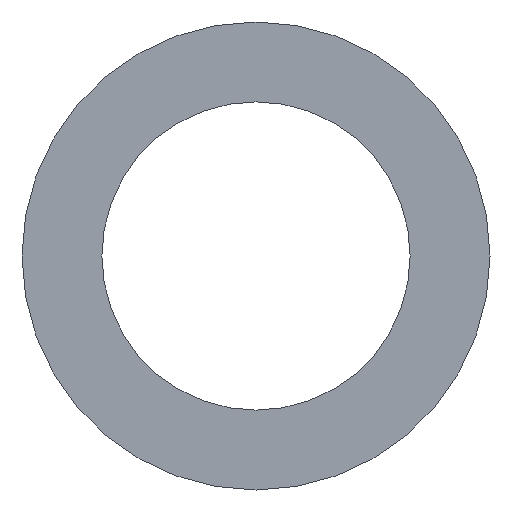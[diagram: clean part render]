
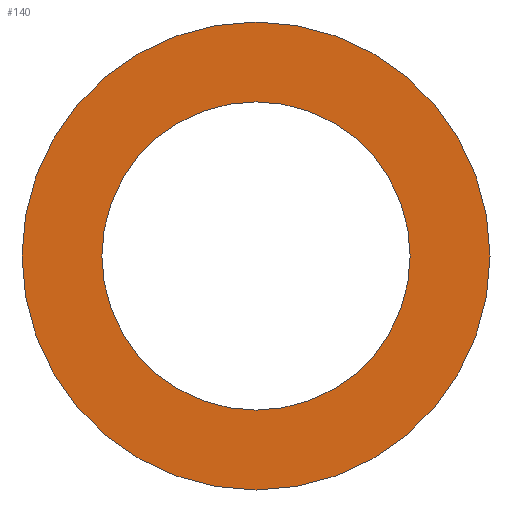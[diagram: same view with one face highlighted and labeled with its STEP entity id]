
A CAD part, front view. The second image highlights one B-rep face of the part: STEP entity #140.
In plain terms, the highlighted planar face has unit normal (0, -1, 0).
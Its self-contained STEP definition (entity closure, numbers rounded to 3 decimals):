
#31 = CYLINDRICAL_SURFACE('',#32,17.);
#32 = AXIS2_PLACEMENT_3D('',#33,#34,#35);
#33 = CARTESIAN_POINT('',(315.,-91.913,125.));
#34 = DIRECTION('',(0.,1.,0.));
#35 = DIRECTION('',(0.,-0.,1.));
#56 = VERTEX_POINT('',#57);
#57 = CARTESIAN_POINT('',(315.,-91.913,142.));
#78 = EDGE_CURVE('',#56,#56,#79,.T.);
#79 = SURFACE_CURVE('',#80,(#85,#92),.PCURVE_S1.);
#80 = CIRCLE('',#81,17.);
#81 = AXIS2_PLACEMENT_3D('',#82,#83,#84);
#82 = CARTESIAN_POINT('',(315.,-91.913,125.));
#83 = DIRECTION('',(0.,1.,0.));
#84 = DIRECTION('',(0.,-0.,1.));
#85 = PCURVE('',#31,#86);
#86 = DEFINITIONAL_REPRESENTATION('',(#87),#91);
#87 = LINE('',#88,#89);
#88 = CARTESIAN_POINT('',(0.,0.));
#89 = VECTOR('',#90,1.);
#90 = DIRECTION('',(1.,0.));
#91 = ( GEOMETRIC_REPRESENTATION_CONTEXT(2) 
PARAMETRIC_REPRESENTATION_CONTEXT() REPRESENTATION_CONTEXT('2D SPACE',''
  ) );
#92 = PCURVE('',#93,#98);
#93 = PLANE('',#94);
#94 = AXIS2_PLACEMENT_3D('',#95,#96,#97);
#95 = CARTESIAN_POINT('',(315.,-91.913,125.));
#96 = DIRECTION('',(0.,1.,0.));
#97 = DIRECTION('',(0.,-0.,1.));
#98 = DEFINITIONAL_REPRESENTATION('',(#99),#103);
#99 = CIRCLE('',#100,17.);
#100 = AXIS2_PLACEMENT_2D('',#101,#102);
#101 = CARTESIAN_POINT('',(0.,0.));
#102 = DIRECTION('',(1.,0.));
#103 = ( GEOMETRIC_REPRESENTATION_CONTEXT(2) 
PARAMETRIC_REPRESENTATION_CONTEXT() REPRESENTATION_CONTEXT('2D SPACE',''
  ) );
#129 = CYLINDRICAL_SURFACE('',#130,11.2);
#130 = AXIS2_PLACEMENT_3D('',#131,#132,#133);
#131 = CARTESIAN_POINT('',(315.,-91.913,125.));
#132 = DIRECTION('',(0.,1.,0.));
#133 = DIRECTION('',(0.,-0.,1.));
#140 = ADVANCED_FACE('',(#141,#144),#93,.F.);
#141 = FACE_BOUND('',#142,.F.);
#142 = EDGE_LOOP('',(#143));
#143 = ORIENTED_EDGE('',*,*,#78,.T.);
#144 = FACE_BOUND('',#145,.F.);
#145 = EDGE_LOOP('',(#146));
#146 = ORIENTED_EDGE('',*,*,#147,.F.);
#147 = EDGE_CURVE('',#148,#148,#150,.T.);
#148 = VERTEX_POINT('',#149);
#149 = CARTESIAN_POINT('',(315.,-91.913,136.2));
#150 = SURFACE_CURVE('',#151,(#156,#163),.PCURVE_S1.);
#151 = CIRCLE('',#152,11.2);
#152 = AXIS2_PLACEMENT_3D('',#153,#154,#155);
#153 = CARTESIAN_POINT('',(315.,-91.913,125.));
#154 = DIRECTION('',(0.,1.,0.));
#155 = DIRECTION('',(0.,-0.,1.));
#156 = PCURVE('',#93,#157);
#157 = DEFINITIONAL_REPRESENTATION('',(#158),#162);
#158 = CIRCLE('',#159,11.2);
#159 = AXIS2_PLACEMENT_2D('',#160,#161);
#160 = CARTESIAN_POINT('',(0.,0.));
#161 = DIRECTION('',(1.,0.));
#162 = ( GEOMETRIC_REPRESENTATION_CONTEXT(2) 
PARAMETRIC_REPRESENTATION_CONTEXT() REPRESENTATION_CONTEXT('2D SPACE',''
  ) );
#163 = PCURVE('',#129,#164);
#164 = DEFINITIONAL_REPRESENTATION('',(#165),#169);
#165 = LINE('',#166,#167);
#166 = CARTESIAN_POINT('',(0.,0.));
#167 = VECTOR('',#168,1.);
#168 = DIRECTION('',(1.,0.));
#169 = ( GEOMETRIC_REPRESENTATION_CONTEXT(2) 
PARAMETRIC_REPRESENTATION_CONTEXT() REPRESENTATION_CONTEXT('2D SPACE',''
  ) );
